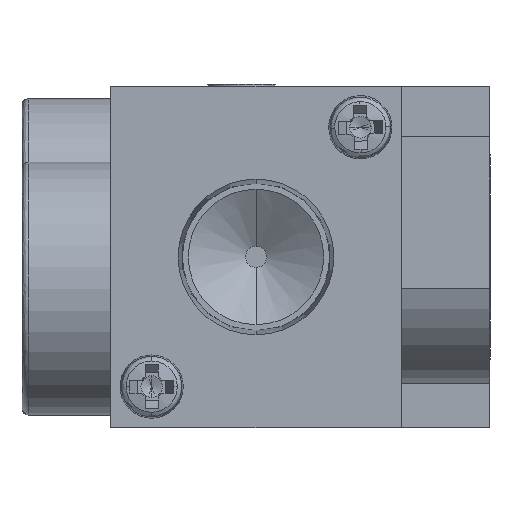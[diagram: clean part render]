
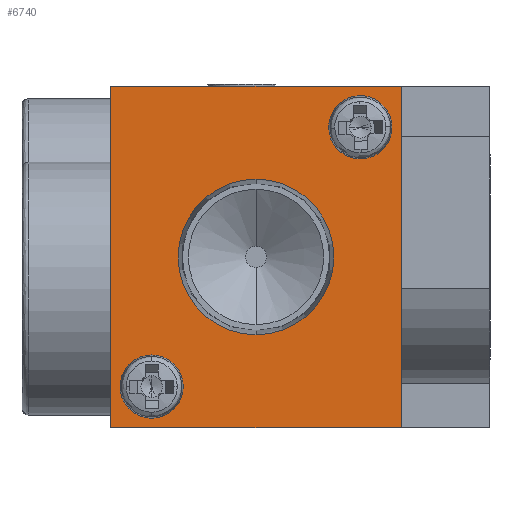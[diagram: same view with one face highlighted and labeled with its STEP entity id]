
A CAD part, left-side view. The second image highlights one B-rep face of the part: STEP entity #6740.
In plain terms, the highlighted planar face has unit normal (-1, 0, 0) as drawn and (1, 0, 0) by its records, which use the part's own axes.
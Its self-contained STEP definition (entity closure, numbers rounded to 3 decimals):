
#31 = VERTEX_POINT ( 'NONE', #1003 ) ;
#170 = CIRCLE ( 'NONE', #6584, 6.154 ) ;
#406 = CARTESIAN_POINT ( 'NONE',  ( 6.9, 44., 27. ) ) ;
#449 = VERTEX_POINT ( 'NONE', #5652 ) ;
#631 = CARTESIAN_POINT ( 'NONE',  ( 6.9, 0., 0. ) ) ;
#702 = FACE_OUTER_BOUND ( 'NONE', #3753, .T. ) ;
#913 = CARTESIAN_POINT ( 'NONE',  ( 6.9, 21., 0. ) ) ;
#931 = DIRECTION ( 'NONE',  ( 1., 0., 0. ) ) ;
#981 = DIRECTION ( 'NONE',  ( 0., 1., 0. ) ) ;
#1003 = CARTESIAN_POINT ( 'NONE',  ( 6.9, 32.5, 7.346 ) ) ;
#1113 = DIRECTION ( 'NONE',  ( 0., -1., 0. ) ) ;
#1204 = EDGE_CURVE ( 'NONE', #31, #449, #2535, .T. ) ;
#1575 = VECTOR ( 'NONE', #1113, 1000. ) ;
#1815 = AXIS2_PLACEMENT_3D ( 'NONE', #631, #5838, #7803 ) ;
#1883 = ORIENTED_EDGE ( 'NONE', *, *, #8031, .F. ) ;
#2362 = ORIENTED_EDGE ( 'NONE', *, *, #8120, .T. ) ;
#2510 = ORIENTED_EDGE ( 'NONE', *, *, #4526, .T. ) ;
#2535 = CIRCLE ( 'NONE', #4224, 6.154 ) ;
#2780 = EDGE_CURVE ( 'NONE', #6500, #6421, #6195, .T. ) ;
#2967 = EDGE_LOOP ( 'NONE', ( #6920, #1883 ) ) ;
#3516 = CARTESIAN_POINT ( 'NONE',  ( 6.9, 32.5, 13.5 ) ) ;
#3526 = VECTOR ( 'NONE', #6542, 1000. ) ;
#3639 = DIRECTION ( 'NONE',  ( 0., 0., -1. ) ) ;
#3694 = LINE ( 'NONE', #6255, #6733 ) ;
#3753 = EDGE_LOOP ( 'NONE', ( #4554, #2510, #6048, #2362 ) ) ;
#4224 = AXIS2_PLACEMENT_3D ( 'NONE', #5525, #931, #5464 ) ;
#4325 = CARTESIAN_POINT ( 'NONE',  ( 6.9, 21., 0. ) ) ;
#4526 = EDGE_CURVE ( 'NONE', #5509, #6500, #5972, .T. ) ;
#4554 = ORIENTED_EDGE ( 'NONE', *, *, #5249, .T. ) ;
#4919 = CARTESIAN_POINT ( 'NONE',  ( 6.9, 44., 27. ) ) ;
#5249 = EDGE_CURVE ( 'NONE', #8100, #5509, #5678, .T. ) ;
#5255 = FACE_BOUND ( 'NONE', #2967, .T. ) ;
#5274 = VECTOR ( 'NONE', #981, 1000. ) ;
#5464 = DIRECTION ( 'NONE',  ( 0., 0., -1. ) ) ;
#5509 = VERTEX_POINT ( 'NONE', #7112 ) ;
#5525 = CARTESIAN_POINT ( 'NONE',  ( 6.9, 32.5, 13.5 ) ) ;
#5652 = CARTESIAN_POINT ( 'NONE',  ( 6.9, 32.5, 19.654 ) ) ;
#5678 = LINE ( 'NONE', #913, #5274 ) ;
#5838 = DIRECTION ( 'NONE',  ( 1., 0., 0. ) ) ;
#5972 = LINE ( 'NONE', #6489, #3526 ) ;
#6048 = ORIENTED_EDGE ( 'NONE', *, *, #2780, .T. ) ;
#6192 = CARTESIAN_POINT ( 'NONE',  ( 6.9, 21., 27. ) ) ;
#6195 = LINE ( 'NONE', #406, #1575 ) ;
#6255 = CARTESIAN_POINT ( 'NONE',  ( 6.9, 21., 27. ) ) ;
#6421 = VERTEX_POINT ( 'NONE', #6192 ) ;
#6489 = CARTESIAN_POINT ( 'NONE',  ( 6.9, 44., 0. ) ) ;
#6500 = VERTEX_POINT ( 'NONE', #4919 ) ;
#6542 = DIRECTION ( 'NONE',  ( 0., 0., 1. ) ) ;
#6584 = AXIS2_PLACEMENT_3D ( 'NONE', #3516, #7952, #7415 ) ;
#6733 = VECTOR ( 'NONE', #3639, 1000. ) ;
#6740 = ADVANCED_FACE ( 'NONE', ( #5255, #702 ), #7778, .T. ) ;
#6920 = ORIENTED_EDGE ( 'NONE', *, *, #1204, .F. ) ;
#7112 = CARTESIAN_POINT ( 'NONE',  ( 6.9, 44., 0. ) ) ;
#7415 = DIRECTION ( 'NONE',  ( 0., 0., -1. ) ) ;
#7778 = PLANE ( 'NONE',  #1815 ) ;
#7803 = DIRECTION ( 'NONE',  ( 0., 0., -1. ) ) ;
#7952 = DIRECTION ( 'NONE',  ( 1., 0., 0. ) ) ;
#8031 = EDGE_CURVE ( 'NONE', #449, #31, #170, .T. ) ;
#8100 = VERTEX_POINT ( 'NONE', #4325 ) ;
#8120 = EDGE_CURVE ( 'NONE', #6421, #8100, #3694, .T. ) ;
